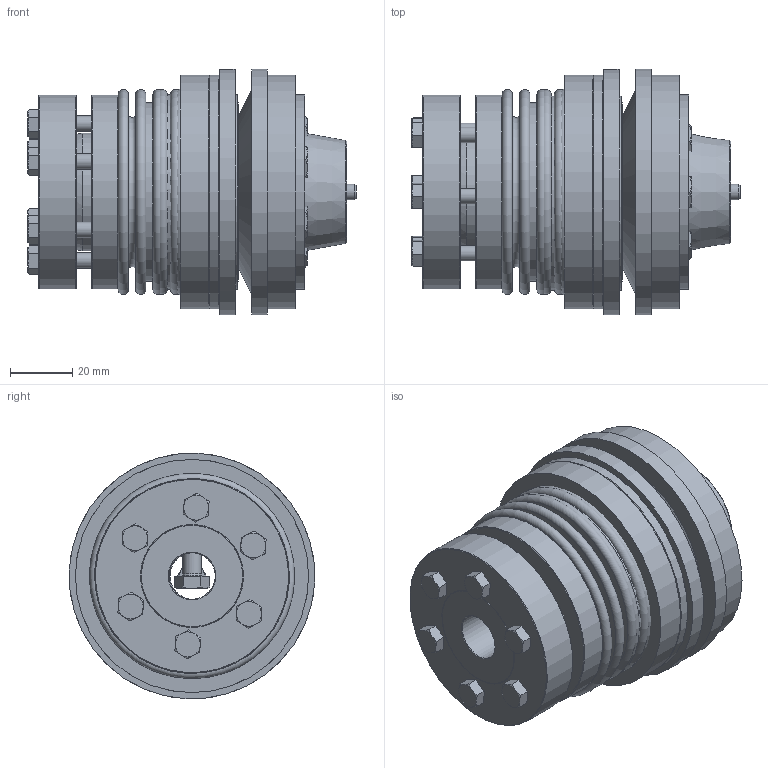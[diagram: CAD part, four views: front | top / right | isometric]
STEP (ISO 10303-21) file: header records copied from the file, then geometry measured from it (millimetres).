
FILE_DESCRIPTION( ( 'Unknown' ), '1' );
FILE_NAME( 'C:/Dokumente und Einstellungen/SKarpstein/Desktop/Korrigierte 3D Modelle/KBK-B-AI/KBK-BAI-60-89.stp', 'Unknown', ( 'Unknown' ), ( 'Unknown' ), 'XStep 1.0', 'Unknown', ' ' );
FILE_SCHEMA( ( 'automotive_design' ) );
Length unit declared in the file: millimetre
Products named in the file (12): Assem1; Assem2; DR60_Standard; Hex Screw GradeC_DIN_ISO 4018 - M5 x 25-NN; BA60_Standard; Stellring 60; Druckring 60; KBK L-I-60 Grundkörper; Konusbuchse 60; din_en_24017_m6x20; Flansch BK60; BK60_Standard_0
Bounding box: 105.5 x 79 x 79 mm (x, y, z)
Volume: 448929.5 mm3; surface area: 236021 mm2
Topology: 38 solids, 38 shells, 741 faces, 1547 edges, 979 vertices
Faces by surface type: plane 325, cone 214, cylinder 159, torus 43
Full cylindrical faces by diameter (mm): 3.242 x6, 4 x6, 4.2 x18, 4.917 x18, 5 x13, 5.5 x18, 6 x7, 6.6 x12, 8.8 x7, 15 x7, 30.2 x2, 33 x2, 35 x4, 37.937 x3, 42 x2, 46 x4, 46.5 x2, 47 x2, 49.5 x2, 56.3 x4, 57.3 x4, 61.3 x2, 62.5 x6, 66 x2, 75 x4, 79 x2
Entity records: 5833 total; most frequent: CARTESIAN_POINT 1211, DIRECTION 938, ORIENTED_EDGE 604, AXIS2_PLACEMENT_3D 445, EDGE_LOOP 410, EDGE_CURVE 302, FACE_OUTER_BOUND 287, VERTEX_POINT 254
